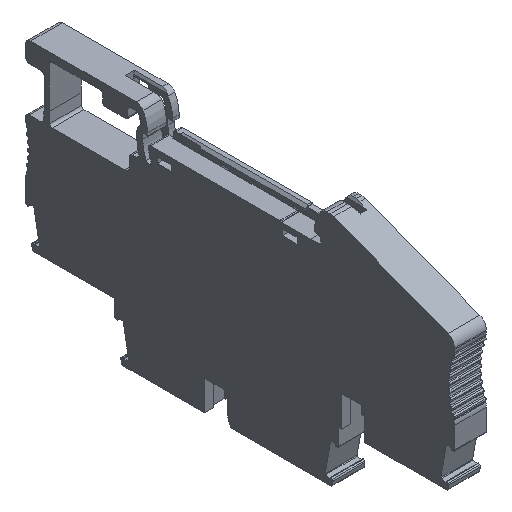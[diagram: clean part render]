
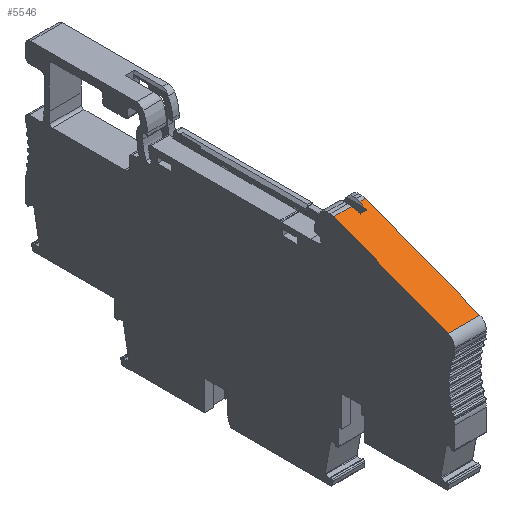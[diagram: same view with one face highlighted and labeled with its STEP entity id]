
A CAD part, isometric view. The second image highlights one B-rep face of the part: STEP entity #5546.
In plain terms, the highlighted planar face has unit normal (0, -0.359, 0.933).
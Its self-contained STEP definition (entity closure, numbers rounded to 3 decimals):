
#509=PLANE('',#19967);
#1461=LINE('',#26977,#3334);
#1600=LINE('',#27748,#3473);
#2450=LINE('',#31323,#4323);
#2495=LINE('',#31437,#4368);
#2496=LINE('',#31441,#4369);
#2498=LINE('',#31445,#4371);
#2499=LINE('',#31446,#4372);
#2500=LINE('',#31448,#4373);
#2501=LINE('',#31449,#4374);
#2502=LINE('',#31451,#4375);
#3334=VECTOR('',#21020,1.);
#3473=VECTOR('',#21577,1.);
#4323=VECTOR('',#23947,1.);
#4368=VECTOR('',#24046,1.);
#4369=VECTOR('',#24051,1.);
#4371=VECTOR('',#24057,1.);
#4372=VECTOR('',#24058,1.);
#4373=VECTOR('',#24059,1.);
#4374=VECTOR('',#24060,1.);
#4375=VECTOR('',#24061,1.);
#5546=ADVANCED_FACE('',(#6545),#509,.F.);
#6545=FACE_OUTER_BOUND('',#7541,.T.);
#7541=EDGE_LOOP('',(#11377,#11378,#11379,#11380,#11381,#11382,#11383,#11384,
#11385,#11386));
#11377=ORIENTED_EDGE('',*,*,#17334,.F.);
#11378=ORIENTED_EDGE('',*,*,#15698,.F.);
#11379=ORIENTED_EDGE('',*,*,#17332,.F.);
#11380=ORIENTED_EDGE('',*,*,#17330,.F.);
#11381=ORIENTED_EDGE('',*,*,#17335,.F.);
#11382=ORIENTED_EDGE('',*,*,#17336,.F.);
#11383=ORIENTED_EDGE('',*,*,#17279,.F.);
#11384=ORIENTED_EDGE('',*,*,#17337,.F.);
#11385=ORIENTED_EDGE('',*,*,#17338,.F.);
#11386=ORIENTED_EDGE('',*,*,#16023,.F.);
#13851=VERTEX_POINT('',#26976);
#13852=VERTEX_POINT('',#26978);
#14140=VERTEX_POINT('',#27747);
#14141=VERTEX_POINT('',#27749);
#14967=VERTEX_POINT('',#31322);
#14968=VERTEX_POINT('',#31324);
#14993=VERTEX_POINT('',#31436);
#14994=VERTEX_POINT('',#31438);
#14995=VERTEX_POINT('',#31447);
#14996=VERTEX_POINT('',#31450);
#15698=EDGE_CURVE('',#13851,#13852,#1461,.T.);
#16023=EDGE_CURVE('',#14140,#14141,#1600,.T.);
#17279=EDGE_CURVE('',#14967,#14968,#2450,.T.);
#17330=EDGE_CURVE('',#14993,#14994,#2495,.T.);
#17332=EDGE_CURVE('',#14994,#13851,#2496,.T.);
#17334=EDGE_CURVE('',#13852,#14140,#2498,.T.);
#17335=EDGE_CURVE('',#14995,#14993,#2499,.T.);
#17336=EDGE_CURVE('',#14968,#14995,#2500,.T.);
#17337=EDGE_CURVE('',#14996,#14967,#2501,.T.);
#17338=EDGE_CURVE('',#14141,#14996,#2502,.T.);
#19967=AXIS2_PLACEMENT_3D('',#31452,#24062,#24063);
#21020=DIRECTION('',(0.,-0.933,-0.359));
#21577=DIRECTION('',(0.,0.933,0.359));
#23947=DIRECTION('',(0.,-0.933,-0.359));
#24046=DIRECTION('',(0.21,0.912,0.351));
#24051=DIRECTION('',(1.,0.,0.));
#24057=DIRECTION('',(-1.,0.,0.));
#24058=DIRECTION('',(0.,0.933,0.359));
#24059=DIRECTION('',(1.,0.,0.));
#24060=DIRECTION('',(0.21,-0.912,-0.351));
#24061=DIRECTION('',(1.,0.,0.));
#24062=DIRECTION('',(0.,0.359,-0.933));
#24063=DIRECTION('',(0.,-0.933,-0.359));
#26976=CARTESIAN_POINT('',(0.,-41.094,45.717));
#26977=CARTESIAN_POINT('',(0.,-41.094,45.717));
#26978=CARTESIAN_POINT('',(0.,-63.394,37.143));
#27747=CARTESIAN_POINT('',(-6.2,-63.394,37.143));
#27748=CARTESIAN_POINT('',(-6.2,-63.394,37.143));
#27749=CARTESIAN_POINT('',(-6.2,-41.094,45.717));
#31322=CARTESIAN_POINT('',(-2.5,-42.048,45.35));
#31323=CARTESIAN_POINT('',(-2.5,-42.048,45.35));
#31324=CARTESIAN_POINT('',(-2.5,-42.576,45.147));
#31436=CARTESIAN_POINT('',(-1.3,-42.048,45.35));
#31437=CARTESIAN_POINT('',(-1.3,-42.048,45.35));
#31438=CARTESIAN_POINT('',(-1.08,-41.094,45.717));
#31441=CARTESIAN_POINT('',(-1.08,-41.094,45.717));
#31445=CARTESIAN_POINT('',(0.,-63.394,37.143));
#31446=CARTESIAN_POINT('',(-1.3,-42.576,45.147));
#31447=CARTESIAN_POINT('',(-1.3,-42.576,45.147));
#31448=CARTESIAN_POINT('',(-2.5,-42.576,45.147));
#31449=CARTESIAN_POINT('',(-2.72,-41.094,45.717));
#31450=CARTESIAN_POINT('',(-2.72,-41.094,45.717));
#31451=CARTESIAN_POINT('',(-6.2,-41.094,45.717));
#31452=CARTESIAN_POINT('',(0.,-64.676,36.65));
